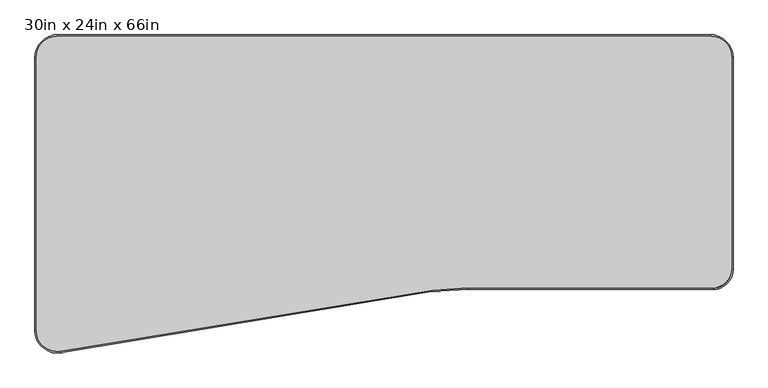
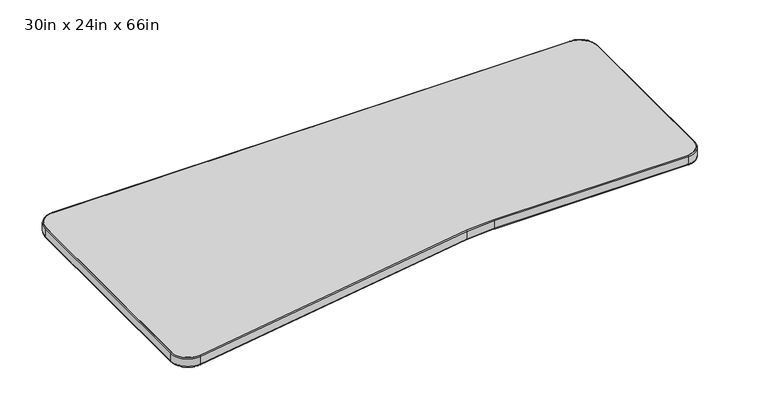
"""IFC4 building model written with IfcOpenShell, lengths in millimetres: furniture geometry, Steelcase - Answer Solution - Universal Table - Transition - Left : 30in x 24in x 66in."""

from ifc_helpers import new_model, si_unit, point, frame, frame_2d, origin, place, context, project, spatial, polyline, circle_curve, ellipse_curve, trimmed, segment, composite_curve, outline, extrude, source, transform, mapped, element, save
from ifc_brep_helpers import plane_surface, cylinder_surface, revolved_surface, advanced_brep


def furniture_30in_x_24in_x_66in_edf3957f(model_context):
    return source(origin(), model_context, "Body", "SolidModel", [
        extrude(outline(composite_curve([segment(polyline([(53.8479244, -3.0479999), (1616.2019516, -3.0479999)]), True, "CONTINUOUS"), segment(trimmed(circle_curve(frame_2d((1616.2019516, -53.8479999)), 50.8), [point((1616.2019516, -3.0479999))], [point((1667.0019516, -53.8479999))], False, "CARTESIAN"), True, "CONTINUOUS"), segment(polyline([(1667.0019516, -53.8479999), (1667.0019516, -558.6676965)]), True, "CONTINUOUS"), segment(trimmed(circle_curve(frame_2d((1619.1176452, -558.6676965)), 47.8843065), [point((1667.0019516, -558.6676965))], [point((1619.1176452, -606.5520029))], False, "CARTESIAN"), True, "CONTINUOUS"), segment(polyline([(1619.1176452, -606.5520029), (1034.7747338, -606.5520029)]), True, "CONTINUOUS"), segment(trimmed(circle_curve(frame_2d((1034.7747338, -1293.7704002)), 687.2183973), [point((1034.7747338, -606.5520029))], [point((951.2043966, -611.6522841))], True, "CARTESIAN"), True, "CONTINUOUS"), segment(polyline([(951.2043966, -611.6522841), (60.025543, -758.1787488)]), True, "CONTINUOUS"), segment(trimmed(circle_curve(frame_2d((53.8479244, -707.7557677)), 50.8), [point((60.025543, -758.1787488))], [point((3.0479244, -707.7557677))], False, "CARTESIAN"), True, "CONTINUOUS"), segment(polyline([(3.0479244, -707.7557677), (3.0479244, -53.8479999)]), True, "CONTINUOUS"), segment(trimmed(circle_curve(frame_2d((53.8479244, -53.8479999)), 50.8), [point((3.0479244, -53.8479999))], [point((53.8479244, -3.0479999))], False, "CARTESIAN"), True, "CONTINUOUS")], self_intersect=False)), frame((0.0, 0.0, 668.274), z_axis=(0.0, 0.0, 1.0), x_axis=(1.0, 0.0, 0.0)), (0.0, 0.0, 1.0), 30.0481659),
        advanced_brep(
        [(-7.55e-05, -53.8479999, 671.3219999), (53.8479244, 0.0, 671.3219999), (53.8479244, -3.0479999, 668.274), (3.0479244, -53.8479999, 668.274), (-7.55e-05, -53.8479999, 695.274166), (53.8479244, 0.0, 695.274166), (3.0479244, -53.8479999, 698.3221659), (53.8479244, -3.0479999, 698.3221659), (3.0479244, -707.7557677, 668.274), (-7.55e-05, -707.7557677, 671.3219999), (-7.55e-05, -707.7557677, 695.274166), (3.0479244, -707.7557677, 698.3221659), (60.3962001, -761.2041276, 671.3219999), (60.025543, -758.1787488, 668.274), (60.3962001, -761.2041276, 695.274166), (60.025543, -758.1787488, 698.3221659), (949.2804802, -611.8879945, 668.274), (949.7752543, -614.8955686, 671.3219999), (949.7752543, -614.8955686, 695.274166), (949.2804802, -611.8879945, 698.3221659), (1036.7130356, -609.6000028, 671.3219999), (1036.7130356, -606.5520029, 668.274), (1036.7130356, -609.6000028, 695.274166), (1036.7130356, -606.5520029, 698.3221659), (1622.5519516, -606.5520029, 668.274), (1622.5519516, -609.6000028, 671.3219999), (1622.5519516, -609.6000028, 695.274166), (1622.5519516, -606.5520029, 698.3221659), (1670.0499516, -562.1020029, 671.3219999), (1667.0019516, -562.1020029, 668.274), (1670.0499516, -562.1020029, 695.274166), (1667.0019516, -562.1020029, 698.3221659), (1667.0019516, -53.8479999, 668.274), (1670.0499516, -53.8479999, 671.3219999), (1670.0499516, -53.8479999, 695.274166), (1667.0019516, -53.8479999, 698.3221659), (1616.2019516, 0.0, 671.3219999), (1616.2019516, -3.0479999, 668.274), (1616.2019516, 0.0, 695.274166), (1616.2019516, -3.0479999, 698.3221659)],
        [
            (0, 1, circle_curve(frame((53.8479244, -53.8479999, 671.3219999), z_axis=(0.0, 0.0, -1.0), x_axis=(0.0, 1.0, 0.0)), 53.8479999)),
            (1, 2, circle_curve(frame((53.8479244, -3.0479999, 671.3219999), z_axis=(-1.0, 0.0, 0.0), x_axis=(0.0, -1.0, 0.0)), 3.0479999)),
            (2, 3, circle_curve(frame((53.8479244, -53.8479999, 668.274), z_axis=(0.0, 0.0, 1.0), x_axis=(0.0, 1.0, 0.0)), 50.8)),
            (3, 0, circle_curve(frame((3.0479244, -53.8479999, 671.3219999), z_axis=(0.0, 1.0, 0.0), x_axis=(1.0, 0.0, 0.0)), 3.0479999)),
            (4, 5, circle_curve(frame((53.8479244, -53.8479999, 695.274166), z_axis=(0.0, 0.0, -1.0), x_axis=(0.0, 1.0, 0.0)), 53.8479999)),
            (5, 1),
            (0, 4),
            (6, 7, circle_curve(frame((53.8479244, -53.8479999, 698.3221659), z_axis=(0.0, 0.0, -1.0), x_axis=(0.0, 1.0, 0.0)), 50.8)),
            (7, 5, circle_curve(frame((53.8479244, -3.0479999, 695.274166), z_axis=(-1.0, 0.0, 0.0), x_axis=(0.0, -1.0, 0.0)), 3.0479999)),
            (4, 6, circle_curve(frame((3.0479244, -53.8479999, 695.274166), z_axis=(0.0, 1.0, 0.0), x_axis=(1.0, 0.0, 0.0)), 3.0479999)),
            (2, 7),
            (6, 3),
            (3, 8),
            (8, 9, circle_curve(frame((3.0479244, -707.7557677, 671.3219999), z_axis=(0.0, 1.0, 0.0), x_axis=(1.0, 0.0, 0.0)), 3.0479999)),
            (9, 0),
            (9, 10),
            (10, 4),
            (10, 11, circle_curve(frame((3.0479244, -707.7557677, 695.274166), z_axis=(0.0, 1.0, 0.0), x_axis=(1.0, 0.0, 0.0)), 3.0479999)),
            (11, 6),
            (11, 8),
            (12, 9, circle_curve(frame((53.8479244, -707.7557677, 671.3219999), z_axis=(0.0, 0.0, -1.0), x_axis=(-1.0, 0.0, 0.0)), 53.8479999)),
            (8, 13, circle_curve(frame((53.8479244, -707.7557677, 668.274), z_axis=(0.0, 0.0, 1.0), x_axis=(-1.0, 0.0, 0.0)), 50.8)),
            (13, 12, circle_curve(frame((60.025543, -758.1787488, 671.3219999), z_axis=(-0.9925783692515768, -0.12160666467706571, 0.0), x_axis=(-0.12160666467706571, 0.9925783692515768, 0.0)), 3.0479999)),
            (14, 10, circle_curve(frame((53.8479244, -707.7557677, 695.274166), z_axis=(0.0, 0.0, -1.0), x_axis=(-1.0, 0.0, 0.0)), 53.8479999)),
            (12, 14),
            (15, 11, circle_curve(frame((53.8479244, -707.7557677, 698.3221659), z_axis=(0.0, 0.0, -1.0), x_axis=(-1.0, 0.0, 0.0)), 50.8)),
            (14, 15, circle_curve(frame((60.025543, -758.1787488, 695.274166), z_axis=(-0.9925783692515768, -0.12160666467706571, 0.0), x_axis=(-0.12160666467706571, 0.9925783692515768, 0.0)), 3.0479999)),
            (15, 13),
            (13, 16),
            (16, 17, circle_curve(frame((949.2804802, -611.8879945, 671.3219999), z_axis=(-0.9867369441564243, -0.16232745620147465, 0.0), x_axis=(-0.16232745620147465, 0.9867369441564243, 0.0)), 3.0479999)),
            (17, 12),
            (17, 18),
            (18, 14),
            (18, 19, circle_curve(frame((949.2804802, -611.8879945, 695.274166), z_axis=(-0.9867369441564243, -0.16232745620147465, 0.0), x_axis=(-0.16232745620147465, 0.9867369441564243, 0.0)), 3.0479999)),
            (19, 15),
            (19, 16),
            (20, 17, circle_curve(frame((1036.7130356, -1325.5303219, 671.3219999), z_axis=(0.0, 0.0, 1.0), x_axis=(-0.12160666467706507, 0.9925783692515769, 0.0)), 715.9303191)),
            (16, 21, circle_curve(frame((1036.7130356, -1325.5303219, 668.274), z_axis=(0.0, 0.0, -1.0), x_axis=(-0.12160666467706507, 0.9925783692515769, 0.0)), 718.978319)),
            (21, 20, circle_curve(frame((1036.7130356, -606.5520029, 671.3219999), z_axis=(-1.0, 0.0, 0.0), x_axis=(0.0, 1.0, 0.0)), 3.0479999)),
            (22, 18, circle_curve(frame((1036.7130356, -1325.5303219, 695.274166), z_axis=(0.0, 0.0, 1.0), x_axis=(-0.12160666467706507, 0.9925783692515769, 0.0)), 715.9303191)),
            (20, 22),
            (23, 19, circle_curve(frame((1036.7130356, -1325.5303219, 698.3221659), z_axis=(0.0, 0.0, 1.0), x_axis=(-0.12160666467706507, 0.9925783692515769, 0.0)), 718.978319)),
            (22, 23, circle_curve(frame((1036.7130356, -606.5520029, 695.274166), z_axis=(-1.0, 0.0, 0.0), x_axis=(0.0, 1.0, 0.0)), 3.0479999)),
            (23, 21),
            (21, 24),
            (24, 25, circle_curve(frame((1622.5519516, -606.5520029, 671.3219999), z_axis=(-1.0, 0.0, 0.0), x_axis=(0.0, 1.0, 0.0)), 3.0479999)),
            (25, 20),
            (25, 26),
            (26, 22),
            (26, 27, circle_curve(frame((1622.5519516, -606.5520029, 695.274166), z_axis=(-1.0, 0.0, 0.0), x_axis=(0.0, 1.0, 0.0)), 3.0479999)),
            (27, 23),
            (27, 24),
            (28, 25, circle_curve(frame((1622.5519516, -562.1020029, 671.3219999), z_axis=(0.0, 0.0, -1.0), x_axis=(0.0, -1.0, 0.0)), 47.4979999)),
            (24, 29, circle_curve(frame((1622.5519516, -562.1020029, 668.274), z_axis=(0.0, 0.0, 1.0), x_axis=(0.0, -1.0, 0.0)), 44.45)),
            (29, 28, circle_curve(frame((1667.0019516, -562.1020029, 671.3219999), z_axis=(0.0, -1.0, 0.0), x_axis=(-1.0, 0.0, 0.0)), 3.0479999)),
            (30, 26, circle_curve(frame((1622.5519516, -562.1020029, 695.274166), z_axis=(0.0, 0.0, -1.0), x_axis=(0.0, -1.0, 0.0)), 47.4979999)),
            (28, 30),
            (31, 27, circle_curve(frame((1622.5519516, -562.1020029, 698.3221659), z_axis=(0.0, 0.0, -1.0), x_axis=(0.0, -1.0, 0.0)), 44.45)),
            (30, 31, circle_curve(frame((1667.0019516, -562.1020029, 695.274166), z_axis=(0.0, -1.0, 0.0), x_axis=(-1.0, 0.0, 0.0)), 3.0479999)),
            (31, 29),
            (29, 32),
            (32, 33, circle_curve(frame((1667.0019516, -53.8479999, 671.3219999), z_axis=(0.0, -1.0, 0.0), x_axis=(-1.0, 0.0, 0.0)), 3.0479999)),
            (33, 28),
            (33, 34),
            (34, 30),
            (34, 35, circle_curve(frame((1667.0019516, -53.8479999, 695.274166), z_axis=(0.0, -1.0, 0.0), x_axis=(-1.0, 0.0, 0.0)), 3.0479999)),
            (35, 31),
            (35, 32),
            (36, 33, circle_curve(frame((1616.2019516, -53.8479999, 671.3219999), z_axis=(0.0, 0.0, -1.0), x_axis=(1.0, 0.0, 0.0)), 53.8479999)),
            (32, 37, circle_curve(frame((1616.2019516, -53.8479999, 668.274), z_axis=(0.0, 0.0, 1.0), x_axis=(1.0, 0.0, 0.0)), 50.8)),
            (37, 36, circle_curve(frame((1616.2019516, -3.0479999, 671.3219999), z_axis=(1.0, 0.0, 0.0), x_axis=(0.0, -1.0, 0.0)), 3.0479999)),
            (38, 34, circle_curve(frame((1616.2019516, -53.8479999, 695.274166), z_axis=(0.0, 0.0, -1.0), x_axis=(1.0, 0.0, 0.0)), 53.8479999)),
            (36, 38),
            (39, 35, circle_curve(frame((1616.2019516, -53.8479999, 698.3221659), z_axis=(0.0, 0.0, -1.0), x_axis=(1.0, 0.0, 0.0)), 50.8)),
            (38, 39, circle_curve(frame((1616.2019516, -3.0479999, 695.274166), z_axis=(1.0, 0.0, 0.0), x_axis=(0.0, -1.0, 0.0)), 3.0479999)),
            (39, 37),
            (37, 2),
            (1, 36),
            (5, 38),
            (7, 39),
        ],
        [
            revolved_surface(trimmed(ellipse_curve(frame((53.8479244, -3.0479999, 671.3219999), z_axis=(1.0, 0.0, 0.0), x_axis=(0.0, -1.0, 0.0)), 3.0479999, 3.0479999), [point((53.8479244, -3.0479999, 668.274))], [point((53.8479244, 0.0, 671.3219999))], True, "CARTESIAN"), (53.8479244, -53.8479999, 0.0), (0.0, 0.0, 1.0)),
            cylinder_surface(frame((53.8479244, -53.8479999, 0.0), z_axis=(0.0, 0.0, 1.0), x_axis=(0.0, 1.0, 0.0)), 53.8479999),
            revolved_surface(trimmed(ellipse_curve(frame((53.8479244, -3.0479999, 695.274166), z_axis=(1.0, 0.0, 0.0), x_axis=(0.0, -1.0, 0.0)), 3.0479999, 3.0479999), [point((53.8479244, 0.0, 695.274166))], [point((53.8479244, -3.0479999, 698.3221659))], True, "CARTESIAN"), (53.8479244, -53.8479999, 0.0), (0.0, 0.0, 1.0)),
            revolved_surface(polyline([(53.8479244, -3.0479999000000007, 698.3221659), (53.8479244, -3.0479999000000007, 668.274)]), (53.8479244, -53.8479999, 0.0), (0.0, 0.0, 1.0)),
            cylinder_surface(frame((3.0479244, -53.8479999, 671.3219999), z_axis=(0.0, 1.0, 0.0), x_axis=(1.0, 0.0, 0.0)), 3.0479999),
            plane_surface(frame((-7.55e-05, -53.8479999, 671.3219999), z_axis=(-1.0, 0.0, 0.0), x_axis=(0.0, -1.0, 0.0))),
            cylinder_surface(frame((3.0479244, -53.8479999, 695.274166), z_axis=(0.0, 1.0, 0.0), x_axis=(1.0, 0.0, 0.0)), 3.0479999),
            plane_surface(frame((3.0479244, -53.8479999, 698.3221659), z_axis=(1.0, 0.0, 0.0), x_axis=(0.0, -1.0, 0.0))),
            revolved_surface(trimmed(ellipse_curve(frame((3.0479244, -707.7557677, 671.3219999), z_axis=(0.0, 1.0, 0.0), x_axis=(1.0, 0.0, 0.0)), 3.0479999, 3.0479999), [point((3.0479244, -707.7557677, 668.274))], [point((-7.55e-05, -707.7557677, 671.3219999))], True, "CARTESIAN"), (53.8479244, -707.7557677, 0.0), (0.0, 0.0, 1.0)),
            cylinder_surface(frame((53.8479244, -707.7557677, 0.0), z_axis=(0.0, 0.0, 1.0), x_axis=(-1.0, 0.0, 0.0)), 53.8479999),
            revolved_surface(trimmed(ellipse_curve(frame((3.0479244, -707.7557677, 695.274166), z_axis=(0.0, 1.0, 0.0), x_axis=(1.0, 0.0, 0.0)), 3.0479999, 3.0479999), [point((-7.55e-05, -707.7557677, 695.274166))], [point((3.0479244, -707.7557677, 698.3221659))], True, "CARTESIAN"), (53.8479244, -707.7557677, 0.0), (0.0, 0.0, 1.0)),
            revolved_surface(polyline([(3.0479243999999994, -707.7557677, 698.3221659), (3.0479243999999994, -707.7557677, 668.274)]), (53.8479244, -707.7557677, 0.0), (0.0, 0.0, 1.0)),
            cylinder_surface(frame((60.025543, -758.1787488, 671.3219999), z_axis=(-0.9867369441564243, -0.16232745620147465, 0.0), x_axis=(-0.16232745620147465, 0.9867369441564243, 0.0)), 3.0479999),
            plane_surface(frame((60.396514, -761.2066897, 671.3219999), z_axis=(0.16232745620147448, -0.9867369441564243, 0.0), x_axis=(0.9867369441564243, 0.16232745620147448, 0.0))),
            cylinder_surface(frame((60.025543, -758.1787488, 695.274166), z_axis=(-0.9867369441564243, -0.16232745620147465, 0.0), x_axis=(-0.16232745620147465, 0.9867369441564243, 0.0)), 3.0479999),
            plane_surface(frame((60.025543, -758.1787488, 698.3221659), z_axis=(-0.1623274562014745, 0.9867369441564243, 0.0), x_axis=(0.9867369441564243, 0.1623274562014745, 0.0))),
            revolved_surface(trimmed(ellipse_curve(frame((949.2804802, -611.8879945, 671.3219999), z_axis=(-0.9925783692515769, -0.12160666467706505, 0.0), x_axis=(-0.12160666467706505, 0.9925783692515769, 0.0)), 3.0479999, 3.0479999), [point((949.2804802, -611.8879945, 668.274))], [point((949.6511373, -614.9133733, 671.3219999))], True, "CARTESIAN"), (1036.7130356, -1325.5303219, 0.0), (0.0, 0.0, -1.0)),
            revolved_surface(polyline([(949.6511373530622, -614.9133732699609, 671.3219999), (949.6511373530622, -614.9133732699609, 695.274166)]), (1036.7130356, -1325.5303219, 0.0), (0.0, 0.0, -1.0)),
            revolved_surface(trimmed(ellipse_curve(frame((949.2804802, -611.8879945, 695.274166), z_axis=(-0.9925783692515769, -0.12160666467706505, 0.0), x_axis=(-0.12160666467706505, 0.9925783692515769, 0.0)), 3.0479999, 3.0479999), [point((949.6511373, -614.9133733, 695.274166))], [point((949.2804802, -611.8879945, 698.3221659))], True, "CARTESIAN"), (1036.7130356, -1325.5303219, 0.0), (0.0, 0.0, -1.0)),
            cylinder_surface(frame((1036.7130356, -1325.5303219, 0.0), z_axis=(0.0, 0.0, -1.0), x_axis=(-0.12160666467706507, 0.9925783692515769, 0.0)), 718.978319),
            cylinder_surface(frame((1036.7130356, -606.5520029, 671.3219999), z_axis=(-1.0, 0.0, 0.0), x_axis=(0.0, 1.0, 0.0)), 3.0479999),
            plane_surface(frame((1036.7130356, -609.6000028, 671.3219999), z_axis=(0.0, -1.0, 0.0), x_axis=(1.0, 0.0, 0.0))),
            cylinder_surface(frame((1036.7130356, -606.5520029, 695.274166), z_axis=(-1.0, 0.0, 0.0), x_axis=(0.0, 1.0, 0.0)), 3.0479999),
            plane_surface(frame((1036.7130356, -606.5520029, 698.3221659), z_axis=(0.0, 1.0, 0.0), x_axis=(1.0, 0.0, 0.0))),
            revolved_surface(trimmed(ellipse_curve(frame((1622.5519516, -606.5520029, 671.3219999), z_axis=(-1.0, 0.0, 0.0), x_axis=(0.0, 1.0, 0.0)), 3.0479999, 3.0479999), [point((1622.5519516, -606.5520029, 668.274))], [point((1622.5519516, -609.6000028, 671.3219999))], True, "CARTESIAN"), (1622.5519516, -562.1020029, 0.0), (0.0, 0.0, 1.0)),
            cylinder_surface(frame((1622.5519516, -562.1020029, 0.0), z_axis=(0.0, 0.0, 1.0), x_axis=(0.0, -1.0, 0.0)), 47.4979999),
            revolved_surface(trimmed(ellipse_curve(frame((1622.5519516, -606.5520029, 695.274166), z_axis=(-1.0, 0.0, 0.0), x_axis=(0.0, 1.0, 0.0)), 3.0479999, 3.0479999), [point((1622.5519516, -609.6000028, 695.274166))], [point((1622.5519516, -606.5520029, 698.3221659))], True, "CARTESIAN"), (1622.5519516, -562.1020029, 0.0), (0.0, 0.0, 1.0)),
            revolved_surface(polyline([(1622.5519516, -606.5520029, 698.3221659), (1622.5519516, -606.5520029, 668.274)]), (1622.5519516, -562.1020029, 0.0), (0.0, 0.0, 1.0)),
            cylinder_surface(frame((1667.0019516, -562.1020029, 671.3219999), z_axis=(0.0, -1.0, 0.0), x_axis=(-1.0, 0.0, 0.0)), 3.0479999),
            plane_surface(frame((1670.0499516, -562.1020029, 671.3219999), z_axis=(1.0, 0.0, 0.0), x_axis=(0.0, 1.0, 0.0))),
            cylinder_surface(frame((1667.0019516, -562.1020029, 695.274166), z_axis=(0.0, -1.0, 0.0), x_axis=(-1.0, 0.0, 0.0)), 3.0479999),
            plane_surface(frame((1667.0019516, -562.1020029, 698.3221659), z_axis=(-1.0, 0.0, 0.0), x_axis=(0.0, 1.0, 0.0))),
            revolved_surface(trimmed(ellipse_curve(frame((1667.0019516, -53.8479999, 671.3219999), z_axis=(0.0, -1.0, 0.0), x_axis=(-1.0, 0.0, 0.0)), 3.0479999, 3.0479999), [point((1667.0019516, -53.8479999, 668.274))], [point((1670.0499516, -53.8479999, 671.3219999))], True, "CARTESIAN"), (1616.2019516, -53.8479999, 0.0), (0.0, 0.0, 1.0)),
            cylinder_surface(frame((1616.2019516, -53.8479999, 0.0), z_axis=(0.0, 0.0, 1.0), x_axis=(1.0, 0.0, 0.0)), 53.8479999),
            revolved_surface(trimmed(ellipse_curve(frame((1667.0019516, -53.8479999, 695.274166), z_axis=(0.0, -1.0, 0.0), x_axis=(-1.0, 0.0, 0.0)), 3.0479999, 3.0479999), [point((1670.0499516, -53.8479999, 695.274166))], [point((1667.0019516, -53.8479999, 698.3221659))], True, "CARTESIAN"), (1616.2019516, -53.8479999, 0.0), (0.0, 0.0, 1.0)),
            revolved_surface(polyline([(1667.0019516, -53.8479999, 698.3221659), (1667.0019516, -53.8479999, 668.274)]), (1616.2019516, -53.8479999, 0.0), (0.0, 0.0, 1.0)),
            cylinder_surface(frame((1616.2019516, -3.0479999, 671.3219999), z_axis=(1.0, 0.0, 0.0), x_axis=(0.0, -1.0, 0.0)), 3.0479999),
            plane_surface(frame((1616.2019516, 0.0, 671.3219999), z_axis=(0.0, 1.0, 0.0), x_axis=(-1.0, 0.0, 0.0))),
            cylinder_surface(frame((1616.2019516, -3.0479999, 695.274166), z_axis=(1.0, 0.0, 0.0), x_axis=(0.0, -1.0, 0.0)), 3.0479999),
            plane_surface(frame((1616.2019516, -3.0479999, 698.3221659), z_axis=(0.0, -1.0, 0.0), x_axis=(-1.0, 0.0, 0.0))),
        ],
        [
            (0, [[1, 2, 3, 4]]),
            (1, [[5, 6, -1, 7]]),
            (2, [[8, 9, -5, 10]]),
            (3, [[-3, 11, -8, 12]]),
            (4, [[-4, 13, 14, 15]]),
            (5, [[-7, -15, 16, 17]]),
            (6, [[-10, -17, 18, 19]]),
            (7, [[-12, -19, 20, -13]]),
            (8, [[21, -14, 22, 23]]),
            (9, [[24, -16, -21, 25]]),
            (10, [[26, -18, -24, 27]]),
            (11, [[-22, -20, -26, 28]]),
            (12, [[-23, 29, 30, 31]]),
            (13, [[-25, -31, 32, 33]]),
            (14, [[-27, -33, 34, 35]]),
            (15, [[-28, -35, 36, -29]]),
            (16, [[37, -30, 38, 39]]),
            (17, [[40, -32, -37, 41]]),
            (18, [[42, -34, -40, 43]]),
            (19, [[-38, -36, -42, 44]]),
            (20, [[-39, 45, 46, 47]]),
            (21, [[-41, -47, 48, 49]]),
            (22, [[-43, -49, 50, 51]]),
            (23, [[-44, -51, 52, -45]]),
            (24, [[53, -46, 54, 55]]),
            (25, [[56, -48, -53, 57]]),
            (26, [[58, -50, -56, 59]]),
            (27, [[-54, -52, -58, 60]]),
            (28, [[-55, 61, 62, 63]]),
            (29, [[-57, -63, 64, 65]]),
            (30, [[-59, -65, 66, 67]]),
            (31, [[-60, -67, 68, -61]]),
            (32, [[69, -62, 70, 71]]),
            (33, [[72, -64, -69, 73]]),
            (34, [[74, -66, -72, 75]]),
            (35, [[-70, -68, -74, 76]]),
            (36, [[-71, 77, -2, 78]]),
            (37, [[-73, -78, -6, 79]]),
            (38, [[-75, -79, -9, 80]]),
            (39, [[-76, -80, -11, -77]]),
        ],
    ),
    ])


if __name__ == "__main__":
    model = new_model("IFC4")
    model_context = context("Model", 3, world=origin())
    ifc_project = project(units=[si_unit("LENGTHUNIT", "METRE", prefix="MILLI")], contexts=[model_context])
    site = spatial("IfcSite", under=ifc_project)
    building = spatial("IfcBuilding", under=site)
    placement = place(None, origin())
    furniture_30in_x_24in_x_66in_shape = furniture_30in_x_24in_x_66in_edf3957f(model_context)
    element("IfcFurniture", 1, ObjectType="Steelcase - Answer Solution - Universal Table - Transition - Left : 30in x 24in x 66in", at=placement, inside=building, context=model_context, shape_type="MappedRepresentation", body=[
        mapped(furniture_30in_x_24in_x_66in_shape, transform((0.0, 0.0, 0.0), x_axis=(1.0, 0.0, 0.0), y_axis=(0.0, 1.0, 0.0), z_axis=(0.0, 0.0, 1.0))),
    ])
    save(model, "model.ifc")
